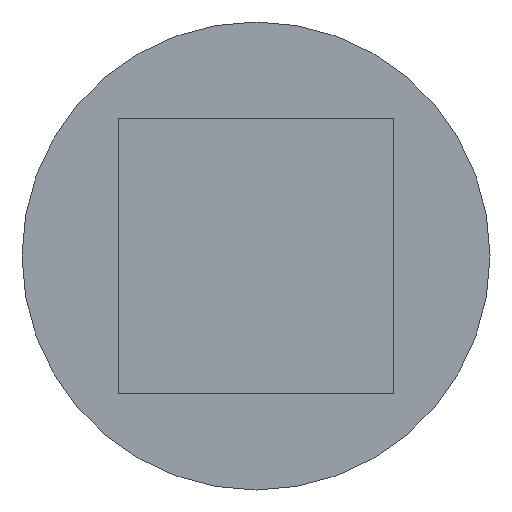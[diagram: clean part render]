
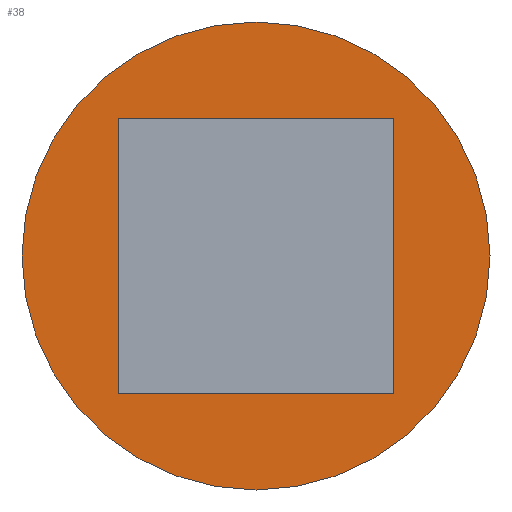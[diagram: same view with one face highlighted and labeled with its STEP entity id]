
A CAD part, left-side view. The second image highlights one B-rep face of the part: STEP entity #38.
In plain terms, the highlighted planar face has unit normal (-1, 0, 0).
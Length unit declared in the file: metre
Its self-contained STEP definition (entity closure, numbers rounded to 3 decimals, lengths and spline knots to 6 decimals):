
#38 = ADVANCED_FACE( '', ( #74, #75 ), #76, .F. );
#74 = FACE_OUTER_BOUND( '', #107, .T. );
#75 = FACE_BOUND( '', #108, .T. );
#76 = PLANE( '', #109 );
#107 = EDGE_LOOP( '', ( #146 ) );
#108 = EDGE_LOOP( '', ( #147, #148, #149, #150 ) );
#109 = AXIS2_PLACEMENT_3D( '', #151, #152, #153 );
#146 = ORIENTED_EDGE( '', *, *, #196, .F. );
#147 = ORIENTED_EDGE( '', *, *, #197, .F. );
#148 = ORIENTED_EDGE( '', *, *, #198, .T. );
#149 = ORIENTED_EDGE( '', *, *, #185, .T. );
#150 = ORIENTED_EDGE( '', *, *, #192, .F. );
#151 = CARTESIAN_POINT( '', ( 0., 0., 0. ) );
#152 = DIRECTION( '', ( 1., 0., 0. ) );
#153 = DIRECTION( '', ( 0., 1., 0. ) );
#185 = EDGE_CURVE( '', #207, #208, #209, .T. );
#192 = EDGE_CURVE( '', #219, #208, #220, .T. );
#196 = EDGE_CURVE( '', #225, #225, #226, .T. );
#197 = EDGE_CURVE( '', #227, #219, #228, .T. );
#198 = EDGE_CURVE( '', #227, #207, #229, .T. );
#207 = VERTEX_POINT( '', #239 );
#208 = VERTEX_POINT( '', #240 );
#209 = LINE( '', #241, #242 );
#219 = VERTEX_POINT( '', #255 );
#220 = LINE( '', #256, #257 );
#225 = VERTEX_POINT( '', #264 );
#226 = CIRCLE( '', #265, 0.06 );
#227 = VERTEX_POINT( '', #266 );
#228 = LINE( '', #267, #268 );
#229 = LINE( '', #269, #270 );
#239 = CARTESIAN_POINT( '', ( 0., -0.035281, -0.035291 ) );
#240 = CARTESIAN_POINT( '', ( 0., 0.035281, -0.035291 ) );
#241 = CARTESIAN_POINT( '', ( 0., 0., -0.035291 ) );
#242 = VECTOR( '', #282, 1. );
#255 = CARTESIAN_POINT( '', ( 0., 0.035281, 0.035291 ) );
#256 = CARTESIAN_POINT( '', ( 0., 0.035281, 0. ) );
#257 = VECTOR( '', #289, 1. );
#264 = CARTESIAN_POINT( '', ( 0., 0., -0.06 ) );
#265 = AXIS2_PLACEMENT_3D( '', #292, #293, #294 );
#266 = CARTESIAN_POINT( '', ( 0., -0.035281, 0.035291 ) );
#267 = CARTESIAN_POINT( '', ( 0., 0., 0.035291 ) );
#268 = VECTOR( '', #295, 1. );
#269 = CARTESIAN_POINT( '', ( 0., -0.035281, 0. ) );
#270 = VECTOR( '', #296, 1. );
#282 = DIRECTION( '', ( 0., 1., 0. ) );
#289 = DIRECTION( '', ( 0., 0., -1. ) );
#292 = CARTESIAN_POINT( '', ( 0., 0., 0. ) );
#293 = DIRECTION( '', ( 1., 0., 0. ) );
#294 = DIRECTION( '', ( 0., 0., -1. ) );
#295 = DIRECTION( '', ( 0., 1., 0. ) );
#296 = DIRECTION( '', ( 0., 0., -1. ) );
